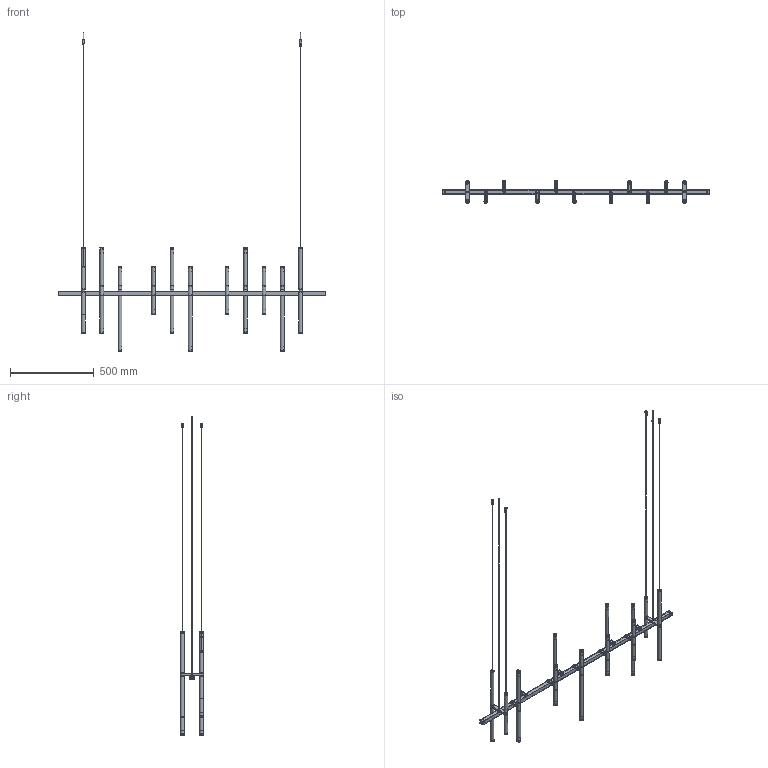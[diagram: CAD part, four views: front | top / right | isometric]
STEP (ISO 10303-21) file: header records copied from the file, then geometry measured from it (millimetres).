
FILE_DESCRIPTION(/* description */ ('EQUALIZER 1600 Concrete Dali-/Push-Dim'),/* implementation_level */ '2;1');
FILE_NAME(/* name */ '3D_EQUALIZER_1600.stp',/* time_stamp */ '2026-10-21T08:34:49+02:00',/* author */ ('Dries'),/* organization */ ('DARK'),/* preprocessor_version */ 'ST-DEVELOPER v20.1',/* originating_system */ 'Autodesk Inventor 2026',/* authorisation */ '');
FILE_SCHEMA (('AUTOMOTIVE_DESIGN { 1 0 10303 214 3 1 1 }'));
Length unit declared in the file: millimetre
Products named in the file (50): 456-4; 456-035; 456-019; 456-05; 456-022; 456-04; 456-06; 456-72; 456-017; 456-020; DIN 912 M3 x 50 zwart; DIN 7991 M3 x 6; 456-028; DIN 916 M3 x 6; 456-021; 456-023; 456-024; 3,5W LED mod; 456-027; 190-1000-000001; 190-1000-000009; 190-2012-001500; DIN 7991 M3 x 16; 456-13; 456-025; 456-026; DIN 7991 M3 x 10; DIN985 M3 ; 456-041; Draadstang M10x1 L25; 456-0411; Draadstang M10x1 L251; 456-0412; 190-2012-0015001; 190-2012-0015002; Draadstang M10x1 L252; Draadstang M10x1 L2511; 190-2012-00150011; 190-1000-0000011; 190-1000-0000091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
Assembly tree (106 placements, depth 4):
  456-4
    456-035
    456-019  x2
    456-04  x3
      456-72
        456-017
        456-020
        DIN 912 M3 x 50 zwart  x2
        DIN 7991 M3 x 6  x2
        456-028
        DIN 916 M3 x 6
      456-021
      456-024
      3,5W LED mod
      456-027
    456-05  x3
      456-72
        456-017
        456-020
        DIN 912 M3 x 50 zwart  x2
        DIN 7991 M3 x 6  x2
        456-028
        DIN 916 M3 x 6
      456-022
      456-024
      3,5W LED mod
      456-027
    456-06  x3
      456-72
        456-017
        456-020
        DIN 912 M3 x 50 zwart  x2
        DIN 7991 M3 x 6  x2
        456-028
        DIN 916 M3 x 6
      456-021
      456-023
      456-024
      3,5W LED mod
      456-027
    190-1000-000001
    190-1000-000008  x4
    190-1000-000009
    190-2012-001500
    DIN 7991 M3 x 16  x4
    456-13  x2
      456-025
      456-026
      DIN 7991 M3 x 10
      DIN985 M3 
    456-032  x4
    456-033  x4
    456-041  x8
    Draadstang M10x1 L25
    456-0411  x2
    Draadstang M10x1 L251
    456-0412  x2
    190-2012-0015001
    190-2012-0015002
    Draadstang M10x1 L252
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Bounding box: 1600 x 137 x 1910 mm (x, y, z)
Volume: 1389907.1 mm3; surface area: 1233888.6 mm2
Topology: 210 solids, 210 shells, 5267 faces, 12680 edges, 8280 vertices
Faces by surface type: plane 3086, cylinder 1645, cone 514, torus 22
Full cylindrical faces by diameter (mm): 1.2 x4, 2 x4, 2.459 x54, 3 x111, 3.2 x4, 3.5 x45, 4 x22, 4.4 x4, 4.713 x4, 4.8 x4, 5.5 x18, 6 x49, 6.5 x4, 7 x31, 8 x5, 8.917 x16, 9 x9, 9.5 x5, 10 x12, 11 x1, 12 x12, 16 x4, 18 x53, 18.8 x18, 18.917 x34, 19 x18, 19.8 x16, 19.9 x18, 20 x18, 20.5 x18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
Entity records: 26130 total; most frequent: CARTESIAN_POINT 4824, DIRECTION 4273, ORIENTED_EDGE 3580, EDGE_CURVE 1790, AXIS2_PLACEMENT_3D 1630, VERTEX_POINT 1146, EDGE_LOOP 1020, LINE 1013
